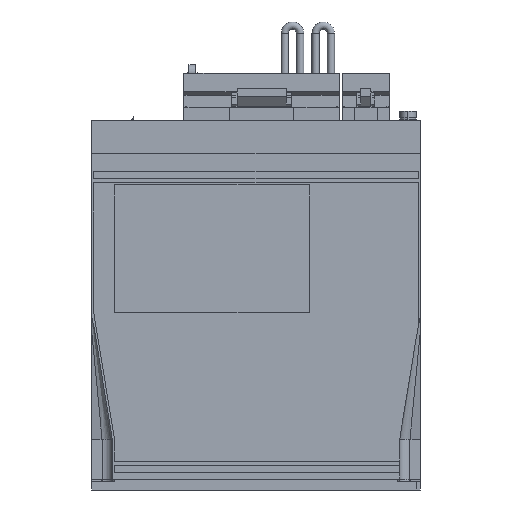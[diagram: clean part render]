
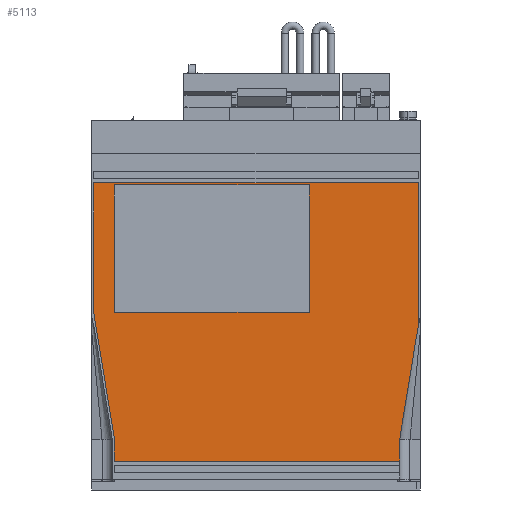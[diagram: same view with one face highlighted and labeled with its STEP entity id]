
A CAD part, left-side view. The second image highlights one B-rep face of the part: STEP entity #5113.
In plain terms, the highlighted planar face has unit normal (-1, 0, 0).
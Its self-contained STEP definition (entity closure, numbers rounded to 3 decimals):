
#1731 = EDGE_CURVE ( 'NONE', #51781, #51777, #21558, .T. ) ;
#5014 = VERTEX_POINT ( 'NONE', #30587 ) ;
#5049 = EDGE_CURVE ( 'NONE', #5050, #5122, #30621, .T. ) ;
#5050 = VERTEX_POINT ( 'NONE', #30616 ) ;
#5058 = EDGE_CURVE ( 'NONE', #5059, #9274, #30728, .T. ) ;
#5059 = VERTEX_POINT ( 'NONE', #30720 ) ;
#5068 = EDGE_CURVE ( 'NONE', #5122, #5059, #30695, .T. ) ;
#5069 = EDGE_CURVE ( 'NONE', #19552, #5014, #30684, .T. ) ;
#5076 = VERTEX_POINT ( 'NONE', #30798 ) ;
#5078 = EDGE_CURVE ( 'NONE', #5014, #5076, #30797, .T. ) ;
#5097 = ORIENTED_EDGE ( 'NONE', *, *, #5098, .F. ) ;
#5098 = EDGE_CURVE ( 'NONE', #5099, #5121, #30857, .T. ) ;
#5099 = VERTEX_POINT ( 'NONE', #30848 ) ;
#5100 = ORIENTED_EDGE ( 'NONE', *, *, #5101, .F. ) ;
#5101 = EDGE_CURVE ( 'NONE', #5118, #5099, #30845, .T. ) ;
#5102 = EDGE_LOOP ( 'NONE', ( #5103, #5104, #5105, #5106, #5107, #5108, #5170, #5171, #5173 ) ) ;
#5103 = ORIENTED_EDGE ( 'NONE', *, *, #1731, .T. ) ;
#5104 = ORIENTED_EDGE ( 'NONE', *, *, #31313, .T. ) ;
#5105 = ORIENTED_EDGE ( 'NONE', *, *, #5069, .T. ) ;
#5106 = ORIENTED_EDGE ( 'NONE', *, *, #5078, .T. ) ;
#5107 = ORIENTED_EDGE ( 'NONE', *, *, #5111, .T. ) ;
#5108 = ORIENTED_EDGE ( 'NONE', *, *, #5049, .T. ) ;
#5111 = EDGE_CURVE ( 'NONE', #5076, #5050, #30836, .T. ) ;
#5113 = ADVANCED_FACE ( 'NONE', ( #30828, #30826 ), #30823, .T. ) ;
#5114 = EDGE_LOOP ( 'NONE', ( #5115, #5119, #5097, #5100 ) ) ;
#5115 = ORIENTED_EDGE ( 'NONE', *, *, #5116, .F. ) ;
#5116 = EDGE_CURVE ( 'NONE', #5117, #5118, #30941, .T. ) ;
#5117 = VERTEX_POINT ( 'NONE', #30937 ) ;
#5118 = VERTEX_POINT ( 'NONE', #30934 ) ;
#5119 = ORIENTED_EDGE ( 'NONE', *, *, #5120, .F. ) ;
#5120 = EDGE_CURVE ( 'NONE', #5121, #5117, #30930, .T. ) ;
#5121 = VERTEX_POINT ( 'NONE', #30922 ) ;
#5122 = VERTEX_POINT ( 'NONE', #30919 ) ;
#5170 = ORIENTED_EDGE ( 'NONE', *, *, #5068, .T. ) ;
#5171 = ORIENTED_EDGE ( 'NONE', *, *, #5058, .T. ) ;
#5173 = ORIENTED_EDGE ( 'NONE', *, *, #21747, .F. ) ;
#9274 = VERTEX_POINT ( 'NONE', #34080 ) ;
#19552 = VERTEX_POINT ( 'NONE', #49408 ) ;
#21555 = DIRECTION ( 'NONE',  ( 0., -0.161, 0.987 ) ) ;
#21556 = VECTOR ( 'NONE', #21555, 1000. ) ;
#21557 = CARTESIAN_POINT ( 'NONE',  ( -5.7, -145., 24.8 ) ) ;
#21558 = LINE ( 'NONE', #21557, #21556 ) ;
#21747 = EDGE_CURVE ( 'NONE', #51781, #9274, #49597, .T. ) ;
#30587 = CARTESIAN_POINT ( 'NONE',  ( -5.7, -154., 149.6 ) ) ;
#30616 = CARTESIAN_POINT ( 'NONE',  ( -5.7, 4., 86.104 ) ) ;
#30617 = DIRECTION ( 'NONE',  ( 0., -0.161, -0.987 ) ) ;
#30618 = VECTOR ( 'NONE', #30617, 1000. ) ;
#30619 = CARTESIAN_POINT ( 'NONE',  ( -5.7, 4., 86.104 ) ) ;
#30621 = LINE ( 'NONE', #30619, #30618 ) ;
#30682 = CARTESIAN_POINT ( 'NONE',  ( -5.7, -154., 14.1 ) ) ;
#30684 = LINE ( 'NONE', #30682, #30822 ) ;
#30689 = DIRECTION ( 'NONE',  ( 0., 0., -1. ) ) ;
#30692 = VECTOR ( 'NONE', #30689, 1000. ) ;
#30694 = CARTESIAN_POINT ( 'NONE',  ( -5.7, -6., 24.881 ) ) ;
#30695 = LINE ( 'NONE', #30694, #30692 ) ;
#30720 = CARTESIAN_POINT ( 'NONE',  ( -5.7, -6., 14.1 ) ) ;
#30723 = DIRECTION ( 'NONE',  ( 0., -1., 0. ) ) ;
#30725 = VECTOR ( 'NONE', #30723, 1000. ) ;
#30726 = CARTESIAN_POINT ( 'NONE',  ( -5.7, -6., 14.1 ) ) ;
#30728 = LINE ( 'NONE', #30726, #30725 ) ;
#30791 = DIRECTION ( 'NONE',  ( 0., 1., 0. ) ) ;
#30793 = VECTOR ( 'NONE', #30791, 1000. ) ;
#30795 = CARTESIAN_POINT ( 'NONE',  ( -5.7, 4., 149.6 ) ) ;
#30797 = LINE ( 'NONE', #30795, #30793 ) ;
#30798 = CARTESIAN_POINT ( 'NONE',  ( -5.7, 4., 149.6 ) ) ;
#30820 = DIRECTION ( 'NONE',  ( 0., 0., 1. ) ) ;
#30822 = VECTOR ( 'NONE', #30820, 1000. ) ;
#30823 = PLANE ( 'NONE',  #30950 ) ;
#30826 = FACE_OUTER_BOUND ( 'NONE', #5102, .T. ) ;
#30828 = FACE_BOUND ( 'NONE', #5114, .T. ) ;
#30831 = DIRECTION ( 'NONE',  ( 0., 0., -1. ) ) ;
#30832 = VECTOR ( 'NONE', #30831, 1000. ) ;
#30835 = CARTESIAN_POINT ( 'NONE',  ( -5.7, 4., 86.104 ) ) ;
#30836 = LINE ( 'NONE', #30835, #30832 ) ;
#30840 = DIRECTION ( 'NONE',  ( 0., 0., 1. ) ) ;
#30841 = VECTOR ( 'NONE', #30840, 1000. ) ;
#30844 = CARTESIAN_POINT ( 'NONE',  ( -5.7, -101., 149.6 ) ) ;
#30845 = LINE ( 'NONE', #30844, #30841 ) ;
#30848 = CARTESIAN_POINT ( 'NONE',  ( -5.7, -101., 148.6 ) ) ;
#30851 = DIRECTION ( 'NONE',  ( 0., 1., 0. ) ) ;
#30852 = VECTOR ( 'NONE', #30851, 1000. ) ;
#30855 = CARTESIAN_POINT ( 'NONE',  ( -5.7, -154., 148.6 ) ) ;
#30857 = LINE ( 'NONE', #30855, #30852 ) ;
#30919 = CARTESIAN_POINT ( 'NONE',  ( -5.7, -6., 24.881 ) ) ;
#30922 = CARTESIAN_POINT ( 'NONE',  ( -5.7, -6., 148.6 ) ) ;
#30925 = DIRECTION ( 'NONE',  ( 0., 0., -1. ) ) ;
#30927 = VECTOR ( 'NONE', #30925, 1000. ) ;
#30929 = CARTESIAN_POINT ( 'NONE',  ( -5.7, -6., 149.6 ) ) ;
#30930 = LINE ( 'NONE', #30929, #30927 ) ;
#30934 = CARTESIAN_POINT ( 'NONE',  ( -5.7, -101., 86.6 ) ) ;
#30937 = CARTESIAN_POINT ( 'NONE',  ( -5.7, -6., 86.6 ) ) ;
#30938 = DIRECTION ( 'NONE',  ( 0., -1., 0. ) ) ;
#30939 = VECTOR ( 'NONE', #30938, 1000. ) ;
#30940 = CARTESIAN_POINT ( 'NONE',  ( -5.7, -154., 86.6 ) ) ;
#30941 = LINE ( 'NONE', #30940, #30939 ) ;
#30947 = DIRECTION ( 'NONE',  ( 0., -1., 0. ) ) ;
#30948 = DIRECTION ( 'NONE',  ( -1., 0., 0. ) ) ;
#30949 = CARTESIAN_POINT ( 'NONE',  ( -5.7, -154., 149.6 ) ) ;
#30950 = AXIS2_PLACEMENT_3D ( 'NONE', #30949, #30948, #30947 ) ;
#31313 = EDGE_CURVE ( 'NONE', #51777, #19552, #50127, .T. ) ;
#34080 = CARTESIAN_POINT ( 'NONE',  ( -5.7, -145., 14.1 ) ) ;
#49408 = CARTESIAN_POINT ( 'NONE',  ( -5.7, -154., 79.394 ) ) ;
#49594 = DIRECTION ( 'NONE',  ( 0., 0., -1. ) ) ;
#49595 = VECTOR ( 'NONE', #49594, 1000. ) ;
#49596 = CARTESIAN_POINT ( 'NONE',  ( -5.7, -145., 24.8 ) ) ;
#49597 = LINE ( 'NONE', #49596, #49595 ) ;
#50121 = CARTESIAN_POINT ( 'NONE',  ( -5.7, -154., 79.394 ) ) ;
#50122 = CARTESIAN_POINT ( 'NONE',  ( -5.7, -153.716, 78.038 ) ) ;
#50123 = CARTESIAN_POINT ( 'NONE',  ( -5.7, -153.473, 76.674 ) ) ;
#50124 = CARTESIAN_POINT ( 'NONE',  ( -5.7, -153.25, 75.306 ) ) ;
#50127 = B_SPLINE_CURVE_WITH_KNOTS ( 'NONE', 3,
 ( #50124, #50123, #50122, #50121 ),
 .UNSPECIFIED., .F., .F.,
 ( 4, 4 ),
 ( 0., 0.004 ),
 .UNSPECIFIED. ) ;
#51777 = VERTEX_POINT ( 'NONE', #52079 ) ;
#51781 = VERTEX_POINT ( 'NONE', #52077 ) ;
#52077 = CARTESIAN_POINT ( 'NONE',  ( -5.7, -145., 24.8 ) ) ;
#52079 = CARTESIAN_POINT ( 'NONE',  ( -5.7, -153.25, 75.306 ) ) ;
